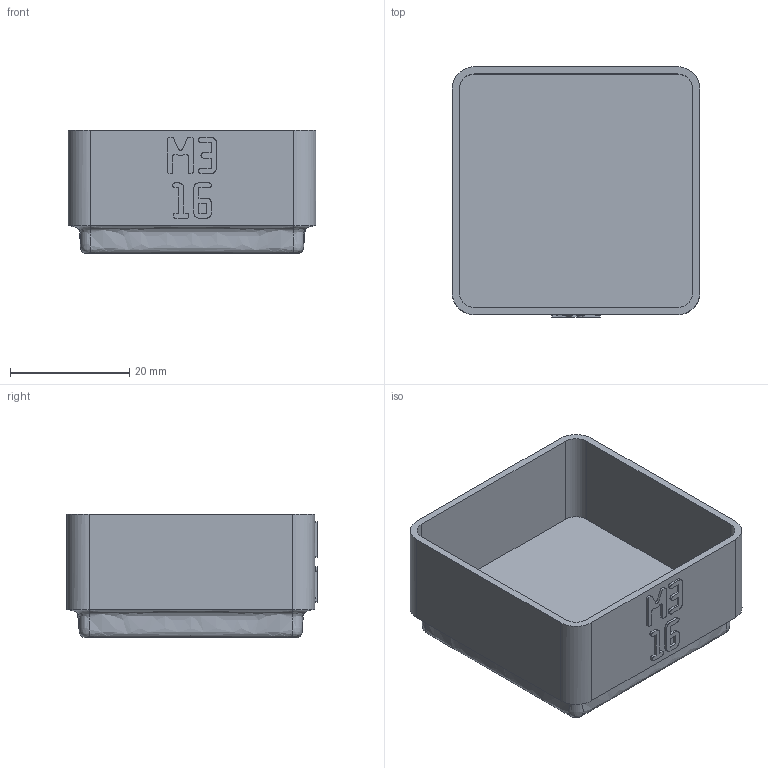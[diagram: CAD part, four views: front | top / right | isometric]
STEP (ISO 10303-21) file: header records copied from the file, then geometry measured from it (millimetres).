
FILE_DESCRIPTION(('Open CASCADE Model'),'2;1');
FILE_NAME('Open CASCADE Shape Model','2026-11-03T15:27:35',('Author'),( 'Open CASCADE'),'Open CASCADE STEP processor 8.0','build123d', 'Unknown');
FILE_SCHEMA(('AUTOMOTIVE_DESIGN { 1 0 10303 214 1 1 1 1 }'));
Length unit declared in the file: millimetre
Products named in the file (1): COMPOUND
Bounding box: 41.5 x 41.9 x 20.75 mm (x, y, z)
Volume: 9643.7 mm3; surface area: 8974.8 mm2
Topology: 1 solids, 1 shells, 454 faces, 1330 edges, 884 vertices
Faces by surface type: plane 438, bspline 8, cylinder 8
Entity records: 31626 total; most frequent: CARTESIAN_POINT 6761, DIRECTION 3996, LINE 3074, VECTOR 3074, ORIENTED_EDGE 2660, PCURVE 2660, DEFINITIONAL_REPRESENTATION 2660, EDGE_CURVE 1330
